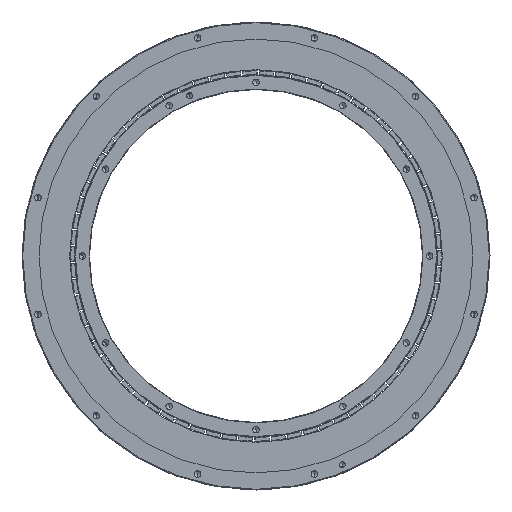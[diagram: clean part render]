
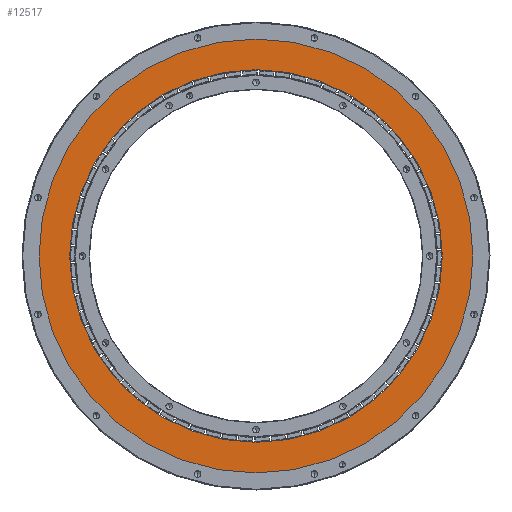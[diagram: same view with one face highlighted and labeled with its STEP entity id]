
A CAD part, front view. The second image highlights one B-rep face of the part: STEP entity #12517.
In plain terms, the highlighted planar face has unit normal (0, -1, 0).
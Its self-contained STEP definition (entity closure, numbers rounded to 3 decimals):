
#691 = CARTESIAN_POINT ( 'NONE',  ( 0., -54., 0. ) ) ;
#928 = CIRCLE ( 'NONE', #13159, 224.905 ) ;
#1036 = DIRECTION ( 'NONE',  ( 0., 0., -1. ) ) ;
#1558 = AXIS2_PLACEMENT_3D ( 'NONE', #13765, #21768, #2498 ) ;
#2498 = DIRECTION ( 'NONE',  ( 0., 0., -1. ) ) ;
#2694 = CARTESIAN_POINT ( 'NONE',  ( 0., -54., 193.1 ) ) ;
#3190 = PLANE ( 'NONE',  #1558 ) ;
#3273 = EDGE_CURVE ( 'NONE', #24600, #5541, #25493, .T. ) ;
#4825 = ORIENTED_EDGE ( 'NONE', *, *, #10712, .T. ) ;
#5169 = CARTESIAN_POINT ( 'NONE',  ( 0., -54., -224.905 ) ) ;
#5246 = VERTEX_POINT ( 'NONE', #10572 ) ;
#5539 = AXIS2_PLACEMENT_3D ( 'NONE', #691, #24289, #8023 ) ;
#5541 = VERTEX_POINT ( 'NONE', #21105 ) ;
#8023 = DIRECTION ( 'NONE',  ( 0., 0., -1. ) ) ;
#8410 = FACE_OUTER_BOUND ( 'NONE', #17902, .T. ) ;
#8725 = CARTESIAN_POINT ( 'NONE',  ( 0., -54., 0. ) ) ;
#10572 = CARTESIAN_POINT ( 'NONE',  ( 0., -54., 224.905 ) ) ;
#10712 = EDGE_CURVE ( 'NONE', #5246, #20226, #13118, .T. ) ;
#12517 = ADVANCED_FACE ( 'NONE', ( #15845, #8410 ), #3190, .T. ) ;
#13118 = CIRCLE ( 'NONE', #33014, 224.905 ) ;
#13159 = AXIS2_PLACEMENT_3D ( 'NONE', #18518, #20816, #23554 ) ;
#13300 = DIRECTION ( 'NONE',  ( 0., 0., -1. ) ) ;
#13472 = CARTESIAN_POINT ( 'NONE',  ( 0., -54., 0. ) ) ;
#13765 = CARTESIAN_POINT ( 'NONE',  ( 0., -54., 0. ) ) ;
#14819 = EDGE_LOOP ( 'NONE', ( #22641, #20634 ) ) ;
#15845 = FACE_BOUND ( 'NONE', #14819, .T. ) ;
#17902 = EDGE_LOOP ( 'NONE', ( #31331, #4825 ) ) ;
#18518 = CARTESIAN_POINT ( 'NONE',  ( 0., -54., 0. ) ) ;
#18917 = EDGE_CURVE ( 'NONE', #5541, #24600, #20405, .T. ) ;
#19279 = DIRECTION ( 'NONE',  ( 0., -1., 0. ) ) ;
#20226 = VERTEX_POINT ( 'NONE', #5169 ) ;
#20405 = CIRCLE ( 'NONE', #33093, 193.1 ) ;
#20634 = ORIENTED_EDGE ( 'NONE', *, *, #3273, .F. ) ;
#20816 = DIRECTION ( 'NONE',  ( 0., -1., 0. ) ) ;
#21105 = CARTESIAN_POINT ( 'NONE',  ( 0., -54., -193.1 ) ) ;
#21768 = DIRECTION ( 'NONE',  ( 0., -1., 0. ) ) ;
#22641 = ORIENTED_EDGE ( 'NONE', *, *, #18917, .F. ) ;
#23554 = DIRECTION ( 'NONE',  ( 0., 0., -1. ) ) ;
#24289 = DIRECTION ( 'NONE',  ( 0., -1., 0. ) ) ;
#24600 = VERTEX_POINT ( 'NONE', #2694 ) ;
#25493 = CIRCLE ( 'NONE', #5539, 193.1 ) ;
#26462 = DIRECTION ( 'NONE',  ( 0., -1., 0. ) ) ;
#29356 = EDGE_CURVE ( 'NONE', #20226, #5246, #928, .T. ) ;
#31331 = ORIENTED_EDGE ( 'NONE', *, *, #29356, .T. ) ;
#33014 = AXIS2_PLACEMENT_3D ( 'NONE', #13472, #26462, #13300 ) ;
#33093 = AXIS2_PLACEMENT_3D ( 'NONE', #8725, #19279, #1036 ) ;
